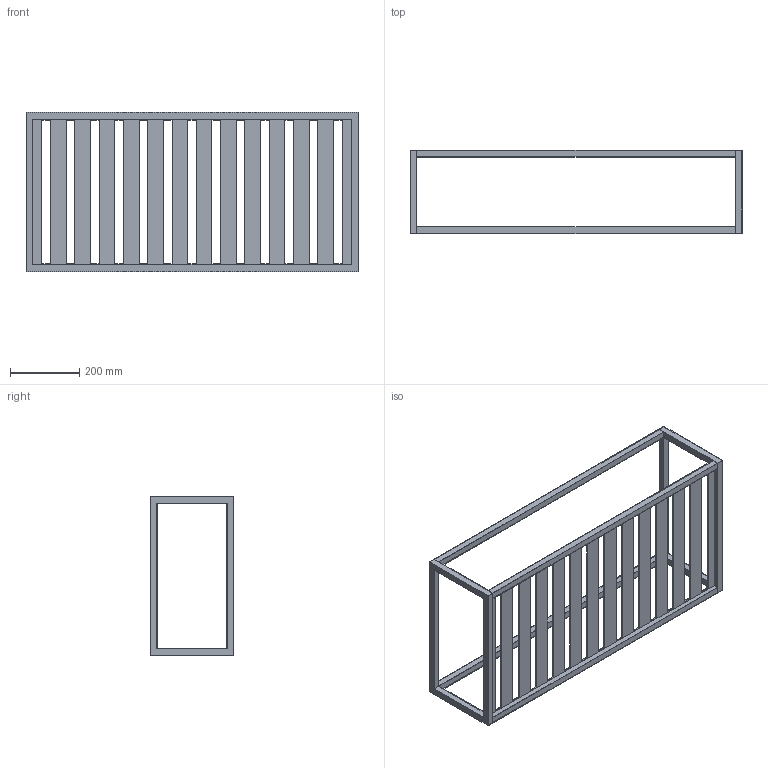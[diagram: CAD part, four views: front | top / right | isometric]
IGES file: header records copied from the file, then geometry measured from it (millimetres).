
Global section: file name: Glow Alt Metal Raf-956 MM; native system: Autodesk Inventor 2024; preprocessor: unknown; author: pc12; date: 20250324.153025; units: millimetre
Bounding box: 956 x 240 x 458 mm (x, y, z)
Volume: 1496328.9 mm3; surface area: 1521377.1 mm2
Topology: 2 solids, 6 shells, 140 faces, 360 edges, 232 vertices
Faces by surface type: bspline 140
